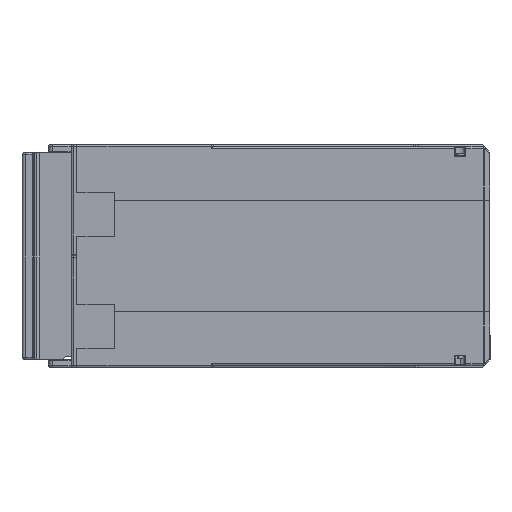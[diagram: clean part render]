
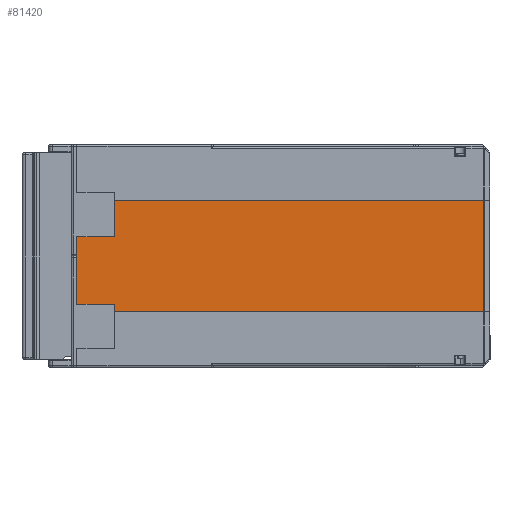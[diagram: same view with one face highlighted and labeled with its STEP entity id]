
A CAD part, left-side view. The second image highlights one B-rep face of the part: STEP entity #81420.
In plain terms, the highlighted planar face has unit normal (-1, 0, 0).
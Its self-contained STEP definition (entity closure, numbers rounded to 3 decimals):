
#14341 = ORIENTED_EDGE ( 'NONE', *, *, #99167, .T. ) ;
#15336 = VERTEX_POINT ( 'NONE', #40613 ) ;
#17537 = CARTESIAN_POINT ( 'NONE',  ( 10.407, 48.997, 112.899 ) ) ;
#17780 = EDGE_CURVE ( 'NONE', #15336, #18676, #211273, .T. ) ;
#18676 = VERTEX_POINT ( 'NONE', #31488 ) ;
#22453 = DIRECTION ( 'NONE',  ( 0., 1., 0. ) ) ;
#25201 = CARTESIAN_POINT ( 'NONE',  ( 10.407, -49.295, 103.099 ) ) ;
#30146 = ORIENTED_EDGE ( 'NONE', *, *, #77445, .T. ) ;
#31488 = CARTESIAN_POINT ( 'NONE',  ( 10.407, 59.447, 123.099 ) ) ;
#37013 = EDGE_CURVE ( 'NONE', #18676, #169553, #112286, .T. ) ;
#39578 = DIRECTION ( 'NONE',  ( 0., 0., -1. ) ) ;
#40148 = DIRECTION ( 'NONE',  ( 0., -1., 0. ) ) ;
#40613 = CARTESIAN_POINT ( 'NONE',  ( 10.407, 49.447, 123.099 ) ) ;
#42780 = DIRECTION ( 'NONE',  ( 0., 1., 0. ) ) ;
#48385 = LINE ( 'NONE', #156568, #169017 ) ;
#50442 = CARTESIAN_POINT ( 'NONE',  ( 10.407, 49.447, 103.099 ) ) ;
#51036 = CARTESIAN_POINT ( 'NONE',  ( 10.407, -49.295, 132.899 ) ) ;
#59820 = CARTESIAN_POINT ( 'NONE',  ( 10.407, 48.997, 123.099 ) ) ;
#61315 = ORIENTED_EDGE ( 'NONE', *, *, #17780, .T. ) ;
#67059 = DIRECTION ( 'NONE',  ( 0., 0., 1. ) ) ;
#72207 = ORIENTED_EDGE ( 'NONE', *, *, #141963, .T. ) ;
#77445 = EDGE_CURVE ( 'NONE', #108873, #153702, #128492, .T. ) ;
#81420 = ADVANCED_FACE ( 'NONE', ( #139810 ), #236550, .T. ) ;
#81999 = CARTESIAN_POINT ( 'NONE',  ( 10.407, 59.447, 99.804 ) ) ;
#87403 = VECTOR ( 'NONE', #22453, 1000. ) ;
#93790 = AXIS2_PLACEMENT_3D ( 'NONE', #17537, #214937, #137021 ) ;
#98434 = DIRECTION ( 'NONE',  ( 0., 0., -1. ) ) ;
#99167 = EDGE_CURVE ( 'NONE', #238872, #123424, #241756, .T. ) ;
#102294 = ORIENTED_EDGE ( 'NONE', *, *, #143910, .T. ) ;
#104057 = CARTESIAN_POINT ( 'NONE',  ( 10.407, 48.997, 132.899 ) ) ;
#106390 = CARTESIAN_POINT ( 'NONE',  ( 10.407, 59.447, 105.099 ) ) ;
#107474 = EDGE_CURVE ( 'NONE', #153702, #15336, #107646, .T. ) ;
#107646 = LINE ( 'NONE', #236040, #206724 ) ;
#108873 = VERTEX_POINT ( 'NONE', #51036 ) ;
#112286 = LINE ( 'NONE', #81999, #143312 ) ;
#117917 = VECTOR ( 'NONE', #40148, 1000. ) ;
#119909 = VECTOR ( 'NONE', #67059, 1000. ) ;
#122709 = LINE ( 'NONE', #159815, #209366 ) ;
#123424 = VERTEX_POINT ( 'NONE', #25201 ) ;
#124077 = CARTESIAN_POINT ( 'NONE',  ( 10.407, -49.295, 112.899 ) ) ;
#128220 = EDGE_CURVE ( 'NONE', #169553, #234889, #48385, .T. ) ;
#128492 = LINE ( 'NONE', #104057, #218222 ) ;
#130895 = ORIENTED_EDGE ( 'NONE', *, *, #128220, .T. ) ;
#132086 = CARTESIAN_POINT ( 'NONE',  ( 10.407, 49.447, 105.099 ) ) ;
#133219 = DIRECTION ( 'NONE',  ( 0., -1., 0. ) ) ;
#137021 = DIRECTION ( 'NONE',  ( 0., 1., 0. ) ) ;
#139810 = FACE_OUTER_BOUND ( 'NONE', #237192, .T. ) ;
#141963 = EDGE_CURVE ( 'NONE', #234889, #238872, #122709, .T. ) ;
#143312 = VECTOR ( 'NONE', #162393, 1000. ) ;
#143910 = EDGE_CURVE ( 'NONE', #123424, #108873, #200348, .T. ) ;
#153702 = VERTEX_POINT ( 'NONE', #155710 ) ;
#155710 = CARTESIAN_POINT ( 'NONE',  ( 10.407, 49.447, 132.899 ) ) ;
#156568 = CARTESIAN_POINT ( 'NONE',  ( 10.407, 48.997, 105.099 ) ) ;
#157502 = ORIENTED_EDGE ( 'NONE', *, *, #107474, .T. ) ;
#159815 = CARTESIAN_POINT ( 'NONE',  ( 10.407, 49.447, 112.899 ) ) ;
#162393 = DIRECTION ( 'NONE',  ( 0., 0., -1. ) ) ;
#169017 = VECTOR ( 'NONE', #133219, 1000. ) ;
#169553 = VERTEX_POINT ( 'NONE', #106390 ) ;
#180225 = CARTESIAN_POINT ( 'NONE',  ( 10.407, 48.997, 103.099 ) ) ;
#200348 = LINE ( 'NONE', #124077, #119909 ) ;
#206724 = VECTOR ( 'NONE', #98434, 1000. ) ;
#209366 = VECTOR ( 'NONE', #39578, 1000. ) ;
#211273 = LINE ( 'NONE', #59820, #87403 ) ;
#213920 = ORIENTED_EDGE ( 'NONE', *, *, #37013, .T. ) ;
#214937 = DIRECTION ( 'NONE',  ( -1., 0., 0. ) ) ;
#218222 = VECTOR ( 'NONE', #42780, 1000. ) ;
#234889 = VERTEX_POINT ( 'NONE', #132086 ) ;
#236040 = CARTESIAN_POINT ( 'NONE',  ( 10.407, 49.447, 123.099 ) ) ;
#236550 = PLANE ( 'NONE',  #93790 ) ;
#237192 = EDGE_LOOP ( 'NONE', ( #102294, #30146, #157502, #61315, #213920, #130895, #72207, #14341 ) ) ;
#238872 = VERTEX_POINT ( 'NONE', #50442 ) ;
#241756 = LINE ( 'NONE', #180225, #117917 ) ;
